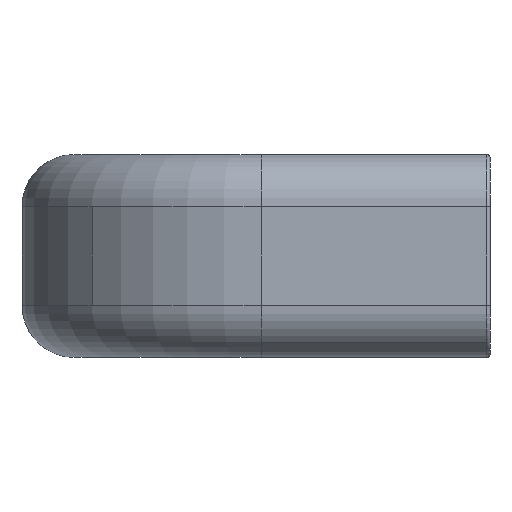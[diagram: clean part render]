
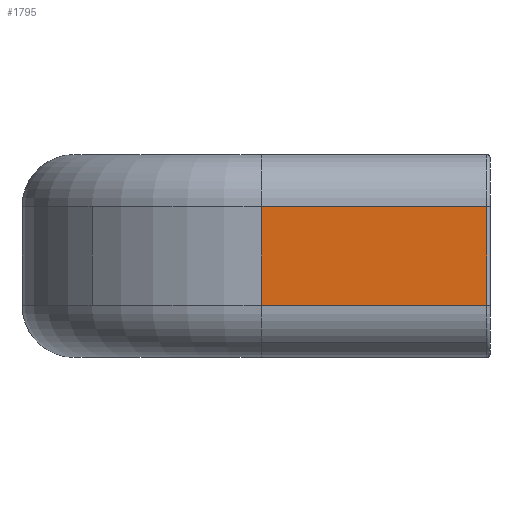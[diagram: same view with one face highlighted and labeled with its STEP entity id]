
A CAD part, left-side view. The second image highlights one B-rep face of the part: STEP entity #1795.
In plain terms, the highlighted planar face has unit normal (-1, 0, 0).
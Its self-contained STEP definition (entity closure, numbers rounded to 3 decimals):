
#415=CARTESIAN_POINT('',(-80.,0.3,-4.5));
#416=VERTEX_POINT('',#415);
#424=CARTESIAN_POINT('',(-80.,22.0,-4.5));
#425=VERTEX_POINT('',#424);
#426=CARTESIAN_POINT('',(-80.,22.0,-4.5));
#427=DIRECTION('',(0.0,-1.0,0.0));
#428=VECTOR('',#427,21.7);
#429=LINE('',#426,#428);
#430=EDGE_CURVE('',#425,#416,#429,.T.);
#464=CARTESIAN_POINT('',(-80.,22.0,5.));
#465=VERTEX_POINT('',#464);
#466=CARTESIAN_POINT('',(-80.,22.0,-4.5));
#467=DIRECTION('',(0.0,0.0,1.0));
#468=VECTOR('',#467,9.5);
#469=LINE('',#466,#468);
#470=EDGE_CURVE('',#425,#465,#469,.T.);
#1772=CARTESIAN_POINT('',(-80.,-0.785,5.475));
#1773=DIRECTION('',(1.0,0.0,0.0));
#1774=DIRECTION('',(0.0,0.0,-1.0));
#1775=AXIS2_PLACEMENT_3D('',#1772,#1773,#1774);
#1776=PLANE('',#1775);
#1777=ORIENTED_EDGE('',*,*,#430,.T.);
#1778=CARTESIAN_POINT('',(-80.,0.3,5.));
#1779=VERTEX_POINT('',#1778);
#1780=CARTESIAN_POINT('',(-80.,0.3,-4.5));
#1781=DIRECTION('',(0.0,0.0,1.0));
#1782=VECTOR('',#1781,9.5);
#1783=LINE('',#1780,#1782);
#1784=EDGE_CURVE('',#416,#1779,#1783,.T.);
#1785=ORIENTED_EDGE('',*,*,#1784,.T.);
#1786=CARTESIAN_POINT('',(-80.,22.0,5.));
#1787=DIRECTION('',(0.0,-1.0,0.0));
#1788=VECTOR('',#1787,21.7);
#1789=LINE('',#1786,#1788);
#1790=EDGE_CURVE('',#465,#1779,#1789,.T.);
#1791=ORIENTED_EDGE('',*,*,#1790,.F.);
#1792=ORIENTED_EDGE('',*,*,#470,.F.);
#1793=EDGE_LOOP('',(#1777,#1785,#1791,#1792));
#1794=FACE_OUTER_BOUND('',#1793,.T.);
#1795=ADVANCED_FACE('',(#1794),#1776,.F.);
